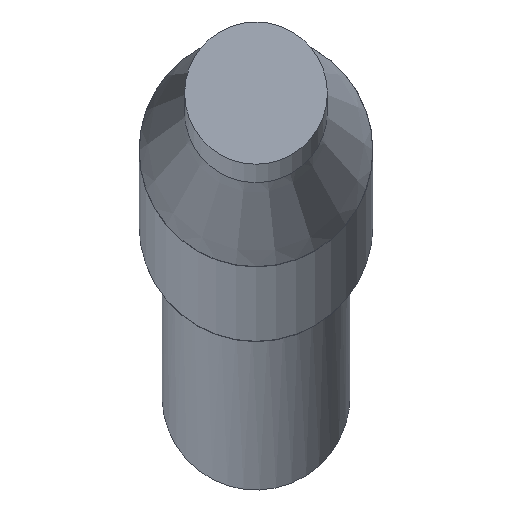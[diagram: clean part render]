
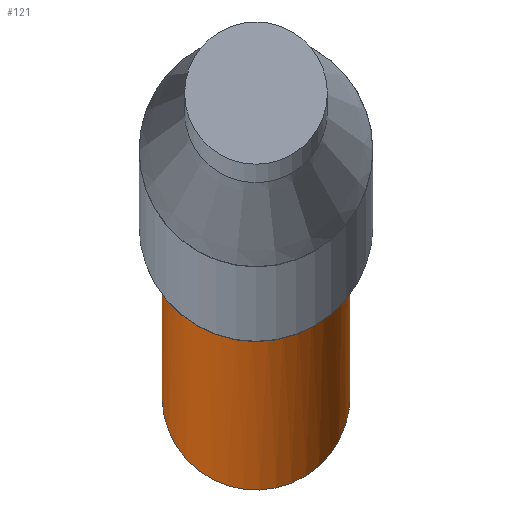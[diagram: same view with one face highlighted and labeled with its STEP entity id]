
A CAD part, left-side view. The second image highlights one B-rep face of the part: STEP entity #121.
In plain terms, the highlighted cylindrical face has radius 132.08 mm (diameter 264.16 mm), a full revolution.
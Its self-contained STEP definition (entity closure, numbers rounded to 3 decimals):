
#121=ADVANCED_FACE('',(#141,#142),#134,.T.);
#134=CYLINDRICAL_SURFACE('',#272,132.08);
#141=FACE_BOUND('',#168,.T.);
#142=FACE_BOUND('',#169,.T.);
#168=EDGE_LOOP('',(#196));
#169=EDGE_LOOP('',(#197));
#196=ORIENTED_EDGE('',*,*,#238,.T.);
#197=ORIENTED_EDGE('',*,*,#237,.F.);
#223=VERTEX_POINT('',#366);
#224=VERTEX_POINT('',#369);
#237=EDGE_CURVE('',#223,#223,#251,.T.);
#238=EDGE_CURVE('',#224,#224,#252,.T.);
#251=CIRCLE('',#269,132.08);
#252=CIRCLE('',#271,132.08);
#269=AXIS2_PLACEMENT_3D('',#365,#309,#310);
#271=AXIS2_PLACEMENT_3D('',#368,#313,#314);
#272=AXIS2_PLACEMENT_3D('',#370,#315,#316);
#309=DIRECTION('',(0.996,0.,-0.087));
#310=DIRECTION('',(0.087,0.04,0.995));
#313=DIRECTION('',(0.996,0.,-0.087));
#314=DIRECTION('',(0.,1.,-0.001));
#315=DIRECTION('',(0.996,0.,-0.087));
#316=DIRECTION('',(0.,-1.,0.001));
#365=CARTESIAN_POINT('',(12613.494,-2.218,-626.689));
#366=CARTESIAN_POINT('',(12624.996,3.043,-495.216));
#368=CARTESIAN_POINT('',(9968.47,-2.19,-395.279));
#369=CARTESIAN_POINT('',(9968.464,129.89,-395.372));
#370=CARTESIAN_POINT('',(9830.126,-2.189,-383.176));
